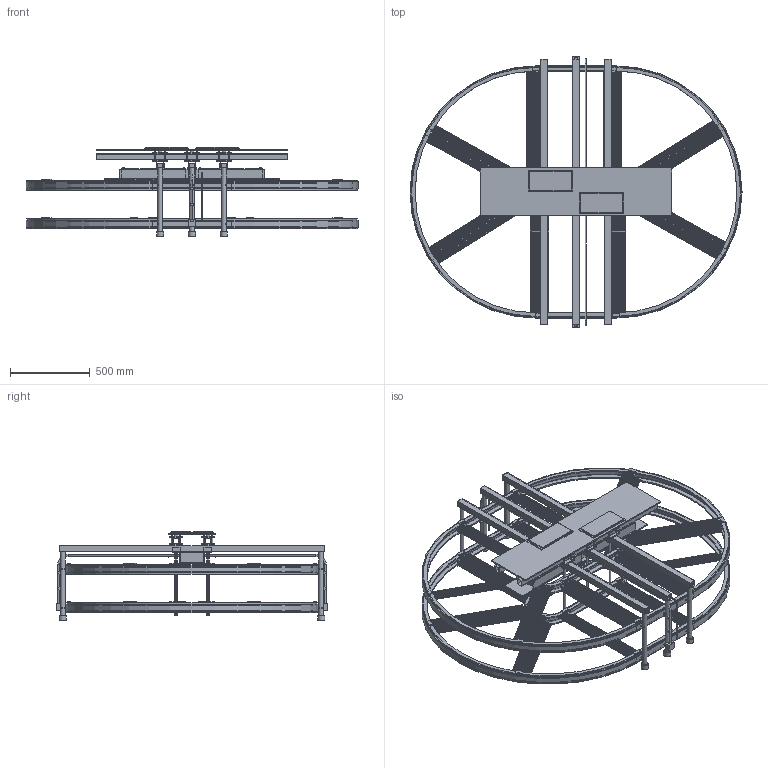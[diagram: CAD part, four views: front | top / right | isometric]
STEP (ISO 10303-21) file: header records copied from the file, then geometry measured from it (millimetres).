
FILE_DESCRIPTION(('FreeCAD Model'),'2;1');
FILE_NAME('Open CASCADE Shape Model','2026-10-29T11:57:43',('FreeCAD'),( 'FreeCAD'),'Open CASCADE STEP processor 7.8','FreeCAD','Unknown');
FILE_SCHEMA(('AUTOMOTIVE_DESIGN { 1 0 10303 214 1 1 1 1 }'));
Products named in the file (1): Open CASCADE STEP translator 7.8 4
Bounding box: 2080 x 1698 x 558 mm (x, y, z)
Volume: 42473610.8 mm3; surface area: 18562768.5 mm2
Topology: 703 solids, 703 shells, 6862 faces, 16360 edges, 10904 vertices
Faces by surface type: plane 6110, cylinder 748, torus 4
Full cylindrical faces by diameter (mm): 6 x28, 6.6 x160, 8 x48, 8.4 x64, 10 x30, 12 x132, 16 x22, 22 x32, 22.2 x32, 24 x28, 24.4 x32, 30 x38, 44 x6
Entity records: 195654 total; most frequent: CARTESIAN_POINT 34127, ORIENTED_EDGE 32720, DIRECTION 31586, EDGE_CURVE 16360, LINE 14860, VECTOR 14860, VERTEX_POINT 10904, AXIS2_PLACEMENT_3D 8363
